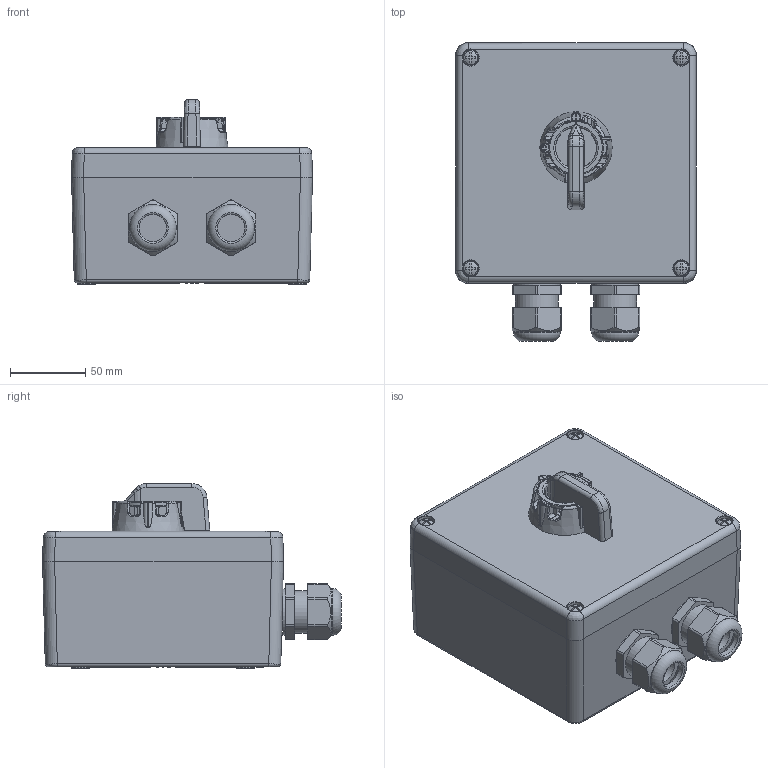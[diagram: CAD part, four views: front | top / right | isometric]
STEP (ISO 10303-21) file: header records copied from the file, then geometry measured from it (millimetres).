
FILE_DESCRIPTION(/* description */ (''),/* implementation_level */ '2;1');
FILE_NAME(/* name */ '4005366.stp',/* time_stamp */ '2019-10-09T08:12:38+02:00',/* author */ (''),/* organization */ (''),/* preprocessor_version */ 'ST-DEVELOPER v16.7',/* originating_system */ 'SIEMENS PLM Software NX 1884',/* authorisation */ '');
FILE_SCHEMA (('AUTOMOTIVE_DESIGN { 1 0 10303 214 3 1 1 1 }'));
Products named in the file (1): BSOM4FD0E1C33h73
Bounding box: 160 x 198.47 x 122.75 mm (x, y, z)
Volume: 720141.4 mm3; surface area: 270194.8 mm2
Topology: 14 solids, 15 shells, 1524 faces, 3830 edges, 2391 vertices
Faces by surface type: plane 655, cylinder 367, bspline 281, cone 114, torus 99, sphere 8
Full cylindrical faces by diameter (mm): 2 x1, 2.5 x4, 4.5 x4, 6 x4, 7.5 x10, 10 x4, 18.2 x2, 18.4 x2, 21 x1, 22.6 x1, 23.8 x2, 25 x2, 26.2 x2, 27 x2, 28.4 x2, 31 x2, 31.1 x2
Entity records: 62725 total; most frequent: CARTESIAN_POINT 29060, ORIENTED_EDGE 7264, DIRECTION 6185, EDGE_CURVE 3632, VERTEX_POINT 2350, AXIS2_PLACEMENT_3D 2203, LINE 1779, VECTOR 1779
